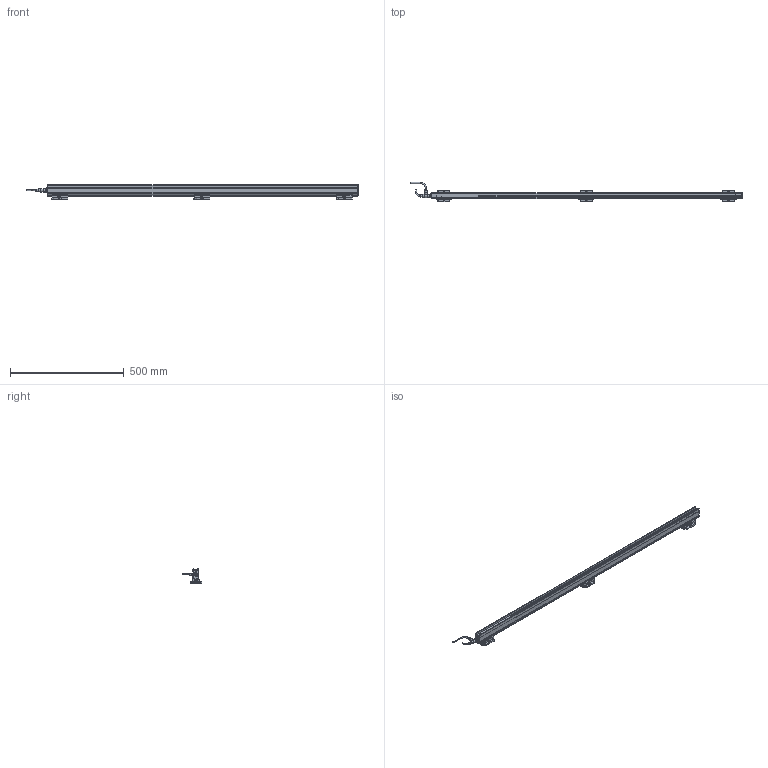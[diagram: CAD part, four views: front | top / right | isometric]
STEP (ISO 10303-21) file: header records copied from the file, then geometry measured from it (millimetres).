
FILE_DESCRIPTION(('Bauteilbeschreibung','HiCAD-Model','HiCAD-STEP-TRANSLATION','Bauteilbeschreibung'),'2;1');
FILE_NAME('PERFORMAXIQEASY_1290-1380_3D.STP','2014-03-05T11:41:45+00:00',('Konstrukteur'),('Konstrukteur Firma GmbH'),' HiCAD 2011, Step 1600.0 ','HiCAD 2011','confidential');
FILE_SCHEMA(('AUTOMOTIVE_DESIGN { 1 2 10303 214 0 1 1 1 }'));
Products named in the file (43): PERFORMAXIQEASY_1290_1380_3D; A_PERFORMAX IQ EASY 1290_1380; A_PERFORMAX IQ EASY SPEED; A_CAP DE; A_CAP CE_5; GROUP; PIN; GROUP0; PIN0; LED_2C_3MM; LED02C03MM; A519020315_CONNECTOR APPLIANCE; A_INSERT; A_CONTACTS; A_HOUSING; A_PROFILE; A_POTTING; A532000100_BRACKET BARS_ MOUNT; A_SIDE PIECE; A0SIDE0PIECE; A_BRACKET SMALL; A_SLIDE PIECE; A5320001000BRACKET0BARS00MOUNT; A0SIDE0PIECE0; A0SIDE0PIECE1; A0BRACKET0SMALL; A0SLIDE0PIECE; A5320001000BRACKET0BARS00MOUNT0; A0SIDE0PIECE2; A0SIDE0PIECE3; A0BRACKET0SMALL0; A0SLIDE0PIECE0; A_CONNECTOR STRAIGHT; EXTRUDED SOLID_0; DRAAD GEBOGEN; REVOLVED SOLID_1; REVOLVED SOLID_3; A_CONNECTOR ANGLED; REVOLVED0SOLID01; EXTRUDED0SOLID00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
Assembly tree (42 placements, depth 5):
  PERFORMAXIQEASY_1290_1380_3D
    A_PERFORMAX IQ EASY 1290_1380
      A_PERFORMAX IQ EASY SPEED
        A_CAP DE
        A_CAP CE_5
        GROUP
          PIN
        GROUP0
          PIN0
        LED_2C_3MM
        LED02C03MM
        A519020315_CONNECTOR APPLIANCE
          A_INSERT
          A_CONTACTS
          A_HOUSING
        A_PROFILE
        A_POTTING
      A532000100_BRACKET BARS_ MOUNT
        A_SIDE PIECE
        A0SIDE0PIECE
        A_BRACKET SMALL
        A_SLIDE PIECE
      A5320001000BRACKET0BARS00MOUNT
        A0SIDE0PIECE0
        A0SIDE0PIECE1
        A0BRACKET0SMALL
        A0SLIDE0PIECE
      A5320001000BRACKET0BARS00MOUNT0
        A0SIDE0PIECE2
        A0SIDE0PIECE3
        A0BRACKET0SMALL0
        A0SLIDE0PIECE0
      A_CONNECTOR STRAIGHT
        EXTRUDED SOLID_0
        DRAAD GEBOGEN
        REVOLVED SOLID_1
        REVOLVED SOLID_3
      A_CONNECTOR ANGLED
        REVOLVED0SOLID01
        EXTRUDED0SOLID00
        C_EDGE SWEEP_0
        REVOLVED SOLID_2
        REVOLVED0SOLID03
Bounding box: 1457.89 x 84.28 x 63.13 mm (x, y, z)
Volume: 1444163.8 mm3; surface area: 372688.2 mm2
Topology: 37 solids, 37 shells, 2679 faces, 6859 edges, 4095 vertices
Faces by surface type: cylinder 1117, plane 1033, sphere 167, torus 158, bspline 128, cone 76
Full cylindrical faces by diameter (mm): 0.8 x10, 1 x5, 2.387 x6, 3 x15, 3.1 x1, 4.2 x2, 5 x4, 5.5 x15, 8 x2, 8.2 x1, 8.4 x2, 8.945 x1, 9 x2, 10.2 x1, 10.5 x3, 11 x1, 12 x3, 12.8 x1, 13.8 x4, 14.5 x3
Entity records: 123325 total; most frequent: CARTESIAN_POINT 28458, DIRECTION 13337, ORIENTED_EDGE 12962, EDGE_CURVE 6481, COLOUR_RGB 6168, PRESENTATION_STYLE_ASSIGNMENT 6168, OVER_RIDING_STYLED_ITEM 6136, CURVE_STYLE 6131
